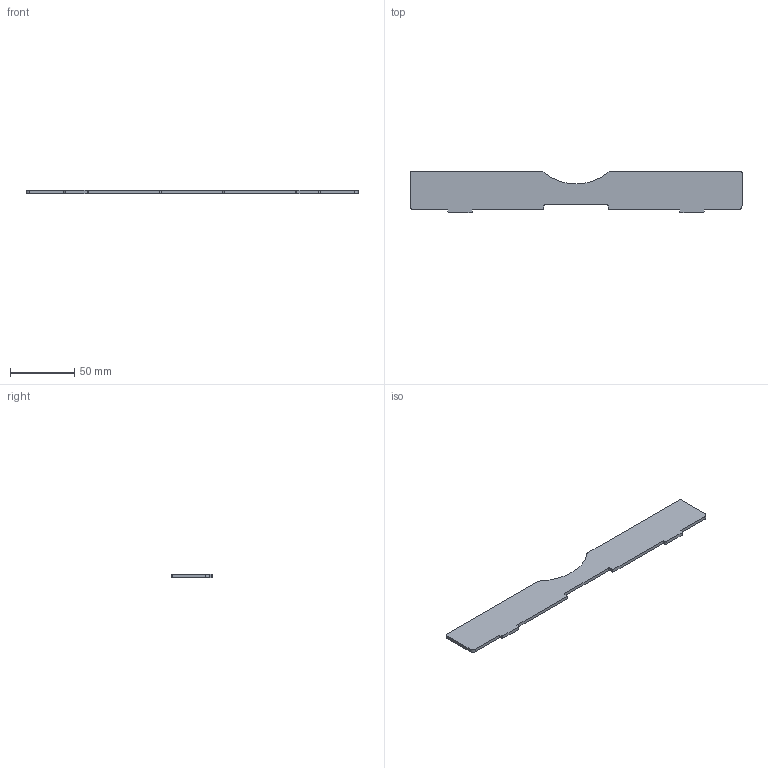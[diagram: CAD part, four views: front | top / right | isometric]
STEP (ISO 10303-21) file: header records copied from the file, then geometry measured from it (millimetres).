
FILE_DESCRIPTION((''),'2;1');
FILE_NAME('288100','2022-12-13T14:14:35',('vmorco'),(''),'CREO PARAMETRIC BY PTC INC, 2020454','CREO PARAMETRIC BY PTC INC, 2020454','');
FILE_SCHEMA(('AUTOMOTIVE_DESIGN { 1 0 10303 214 1 1 1 1 }'));
Length unit declared in the file: millimetre
Products named in the file (1): 288100
Bounding box: 258 x 32.5 x 2.5 mm (x, y, z)
Volume: 18168.4 mm3; surface area: 16016.5 mm2
Topology: 1 solids, 1 shells, 32 faces, 90 edges, 60 vertices
Faces by surface type: plane 19, cylinder 13
Entity records: 1111 total; most frequent: CARTESIAN_POINT 184, DIRECTION 180, ORIENTED_EDGE 180, EDGE_CURVE 90, VECTOR 64, LINE 64, VERTEX_POINT 60, AXIS2_PLACEMENT_3D 58
